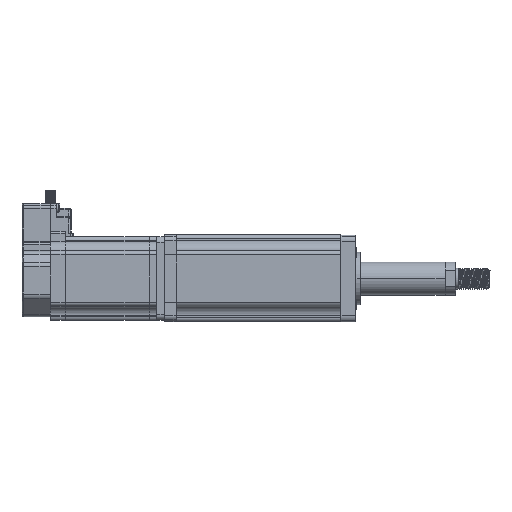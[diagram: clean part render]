
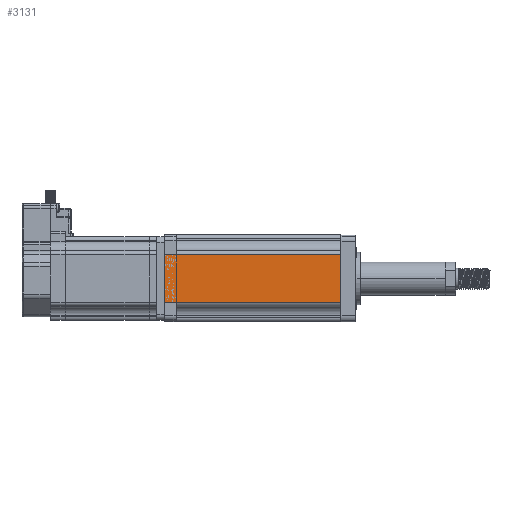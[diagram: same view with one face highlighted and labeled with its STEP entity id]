
A CAD part, front view. The second image highlights one B-rep face of the part: STEP entity #3131.
In plain terms, the highlighted planar face has unit normal (0, -1, 0).
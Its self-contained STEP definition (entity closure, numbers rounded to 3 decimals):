
#3131=ADVANCED_FACE('',(#7437),#7438,.F.);
#7437=FACE_OUTER_BOUND('',#17727,.T.);
#7438=PLANE('',#17728);
#17727=EDGE_LOOP('',(#31390,#31391,#31392,#31393));
#17728=AXIS2_PLACEMENT_3D('',#31394,#31395,#31396);
#31390=ORIENTED_EDGE('',*,*,#47206,.F.);
#31391=ORIENTED_EDGE('',*,*,#47207,.F.);
#31392=ORIENTED_EDGE('',*,*,#47208,.F.);
#31393=ORIENTED_EDGE('',*,*,#47209,.F.);
#31394=CARTESIAN_POINT('',(714.,-37.345,158.67));
#31395=DIRECTION('',(0.,1.0,0.0));
#31396=DIRECTION('',(-1.0,0.,0.));
#47206=EDGE_CURVE('',#55779,#55780,#55781,.T.);
#47207=EDGE_CURVE('',#55782,#55779,#55783,.T.);
#47208=EDGE_CURVE('',#55784,#55782,#55785,.T.);
#47209=EDGE_CURVE('',#55780,#55784,#55786,.T.);
#55779=VERTEX_POINT('',#85176);
#55780=VERTEX_POINT('',#85177);
#55781=LINE('',#85178,#85179);
#55782=VERTEX_POINT('',#85180);
#55783=LINE('',#85181,#85182);
#55784=VERTEX_POINT('',#85183);
#55785=LINE('',#85184,#85185);
#55786=LINE('',#85186,#85187);
#85176=CARTESIAN_POINT('',(714.,-37.345,158.67));
#85177=CARTESIAN_POINT('',(596.,-37.345,158.67));
#85178=CARTESIAN_POINT('',(655.,-37.345,158.67));
#85179=VECTOR('',#107944,0.738);
#85180=CARTESIAN_POINT('',(714.,-37.345,190.67));
#85181=CARTESIAN_POINT('',(714.,-37.345,174.67));
#85182=VECTOR('',#107945,1.0);
#85183=CARTESIAN_POINT('',(596.,-37.345,190.67));
#85184=CARTESIAN_POINT('',(655.,-37.345,190.67));
#85185=VECTOR('',#107946,0.738);
#85186=CARTESIAN_POINT('',(596.,-37.345,174.67));
#85187=VECTOR('',#107947,1.0);
#107944=DIRECTION('',(-1.0,0.,0.));
#107945=DIRECTION('',(0.,0.,-1.0));
#107946=DIRECTION('',(1.0,0.,0.));
#107947=DIRECTION('',(0.,0.,1.0));
